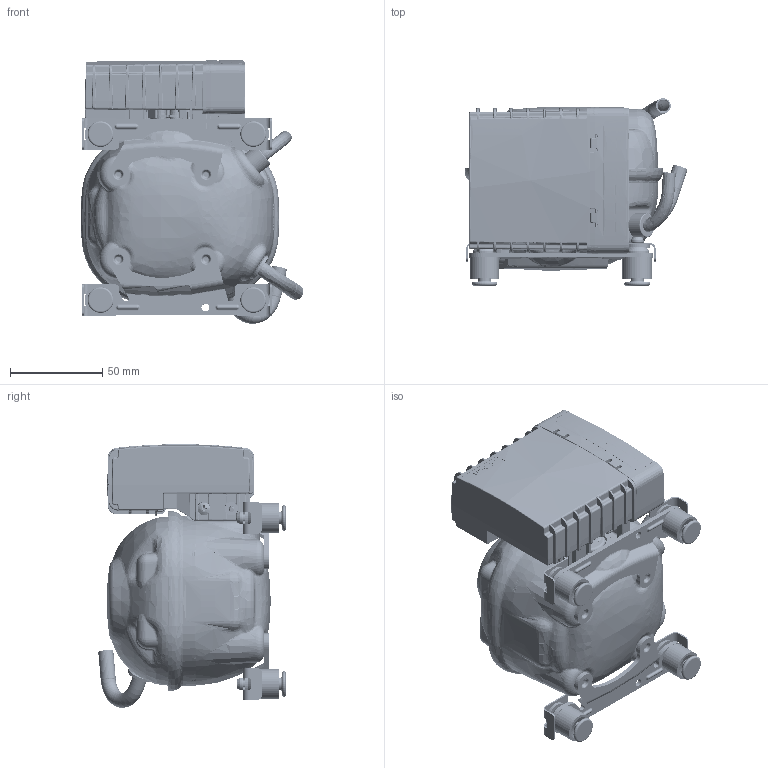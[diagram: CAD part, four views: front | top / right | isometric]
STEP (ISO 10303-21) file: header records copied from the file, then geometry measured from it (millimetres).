
FILE_DESCRIPTION((''),'2;1');
FILE_NAME('109R0010_COMPR_TUBES_BENT_ASM','2022-09-05T15:45:28',('CN6198'),(''),'CREO PARAMETRIC BY PTC INC, 2020053','CREO PARAMETRIC BY PTC INC, 2020053','');
FILE_SCHEMA(('CONFIG_CONTROL_DESIGN'));
Products named in the file (36): 109B0301; 109B0801_BENT1; 109B0841; 109B0851_BENT_1_ASM; 109B0250_BENT_1_ASM; 109B0401; 109B0501; 109B0502; 117-3636_BODY; 117-3636_PIN; 117-3636_GLASS; 117-3636_ASM; 109B0750; 109B0842; 109B0803_BENT_5; 109B0853_BNT_5_ASM; 109B0802_BENT_3; 109B0852_BENT_3_ASM; 109B0651; 109B0101_BENT_5_ASM; 105B4507; 105B4515_01_SW0004; 105B4560; TERMINAL_COMMON_FAHNE; 105B1078_ASM; 105B0263_ROUNDED; 105B4569; 105B4585; 101N2740_ASM; 681Z1148; 118-3671_RUBBER_GROMMET_AF0; 118-3589; ISO-7089_7; 118-3585; P3_MOUNTING_ACCESSORY_ASM; 109R0010_COMPR_TUBES_BENT_ASM
Assembly tree (49 placements, depth 4):
  109R0010_COMPR_TUBES_BENT_ASM
    109B0250_BENT_1_ASM
      109B0301
      109B0851_BENT_1_ASM
        109B0801_BENT1
        109B0841
    109B0101_BENT_5_ASM
      109B0401
      109B0501
      109B0502
      117-3636_ASM
        117-3636_BODY
        117-3636_PIN  x3
        117-3636_GLASS  x3
      109B0750
      109B0853_BNT_5_ASM
        109B0842
        109B0803_BENT_5
      109B0852_BENT_3_ASM
        109B0802_BENT_3
        109B0841
      109B0651  x4
    101N2740_ASM
      105B4507
      105B1078_ASM
        105B4515_01_SW0004
        105B4560
        TERMINAL_COMMON_FAHNE  x3
      105B0263_ROUNDED
      105B4569
      105B4585
    681Z1148  x2
    P3_MOUNTING_ACCESSORY_ASM  x4
      118-3671_RUBBER_GROMMET_AF0
      118-3589
      ISO-7089_7
      118-3585
Bounding box: 120.76 x 101.63 x 142.93 mm (x, y, z)
Volume: 180616.2 mm3; surface area: 180849.1 mm2
Topology: 48 solids, 58 shells, 15735 faces, 40790 edges, 25571 vertices
Faces by surface type: plane 8440, bspline 3501, cylinder 2507, cone 384, torus 364, extrusion 283, sphere 244, revolution 12
Entity records: 590035 total; most frequent: CARTESIAN_POINT 248149, ORIENTED_EDGE 77806, DIRECTION 59275, EDGE_CURVE 38903, VECTOR 25775, LINE 25502, VERTEX_POINT 24449, AXIS2_PLACEMENT_3D 16748
